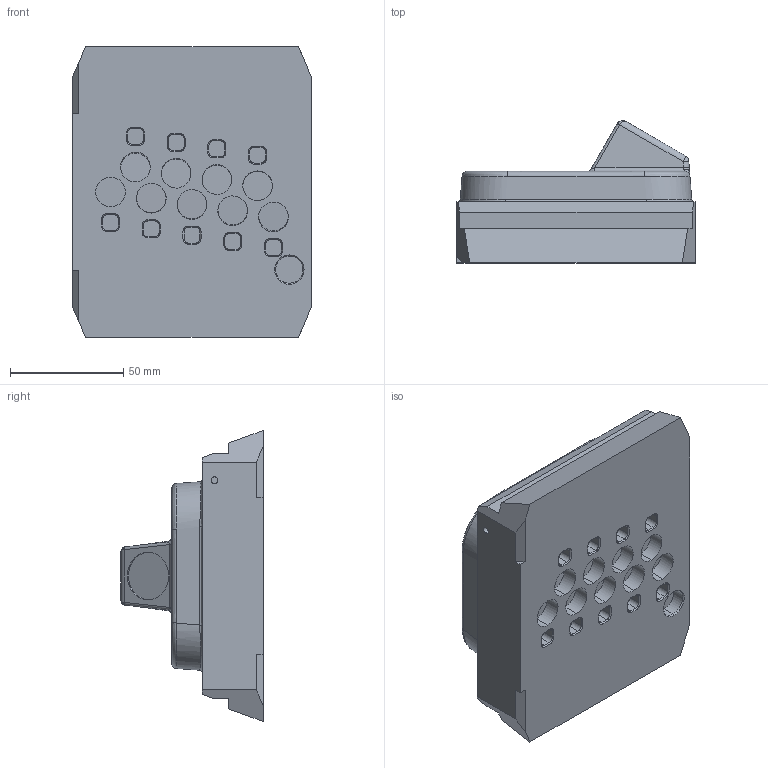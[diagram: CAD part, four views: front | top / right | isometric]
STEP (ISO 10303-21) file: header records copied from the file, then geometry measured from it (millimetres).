
FILE_DESCRIPTION (( 'STEP AP214' ), '1' );
FILE_NAME ('賸.01-04.000-01.STEP', '2025-01-16T09:34:47', ( '' ), ( '' ), 'SwSTEP 2.0', 'SolidWorks 2020', '' );
FILE_SCHEMA (( 'AUTOMOTIVE_DESIGN' ));
Length unit declared in the file: millimetre
Products named in the file (1): 賸.01-04.000-01
Bounding box: 106 x 62.9 x 128.6 mm (x, y, z)
Volume: 443484.7 mm3; surface area: 64112 mm2
Topology: 2 solids, 2 shells, 269 faces, 636 edges, 392 vertices
Faces by surface type: plane 122, cylinder 77, cone 38, bspline 32
Entity records: 10328 total; most frequent: CARTESIAN_POINT 4290, ORIENTED_EDGE 1268, DIRECTION 1211, EDGE_CURVE 634, AXIS2_PLACEMENT_3D 425, VERTEX_POINT 392, VECTOR 361, LINE 361
